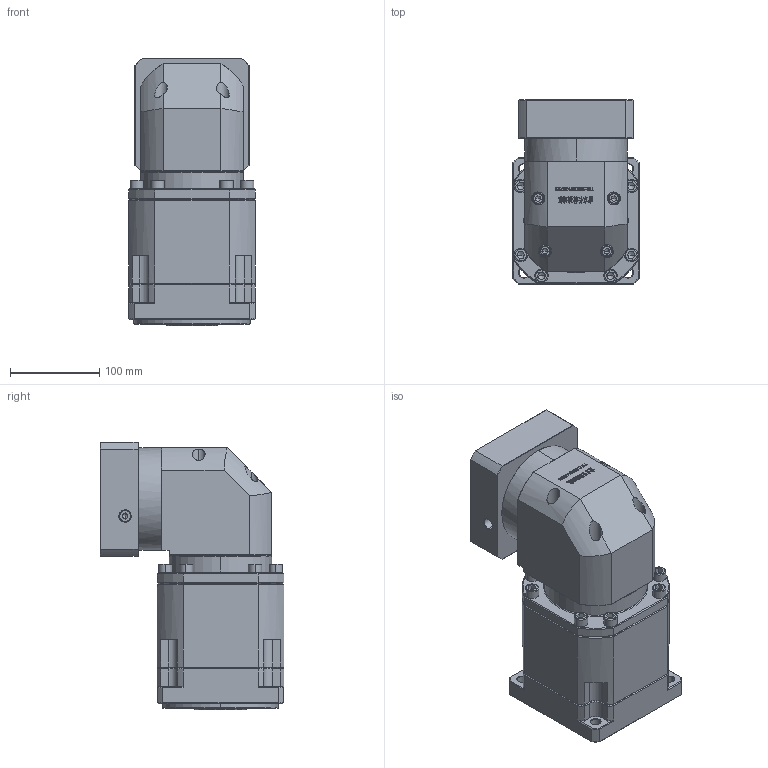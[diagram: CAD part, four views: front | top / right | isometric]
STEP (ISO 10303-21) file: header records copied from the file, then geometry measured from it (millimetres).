
FILE_DESCRIPTION (( 'STEP AP214' ), '1' );
FILE_NAME ('ZBR142A-K35-L3-24-110-145-M8.step', '2023-03-20T04:17:40', ( '' ), ( '' ), 'SwSTEP 2.0', 'SolidWorks 2016', '' );
FILE_SCHEMA (( 'AUTOMOTIVE_DESIGN' ));
Length unit declared in the file: millimetre
Products named in the file (1): ZBR142A-K35-L3-24-110-145-M8
Bounding box: 142 x 205.9 x 300.2 mm (x, y, z)
Volume: 5065547.8 mm3; surface area: 339225.2 mm2
Topology: 6 solids, 6 shells, 3130 faces, 8263 edges, 5300 vertices
Faces by surface type: plane 1645, bspline 585, cylinder 465, cone 391, torus 44
Entity records: 164102 total; most frequent: CARTESIAN_POINT 56674, ORIENTED_EDGE 16422, DIRECTION 12882, EDGE_CURVE 8211, VECTOR 5530, LINE 5530, VERTEX_POINT 5300, AXIS2_PLACEMENT_3D 3676
